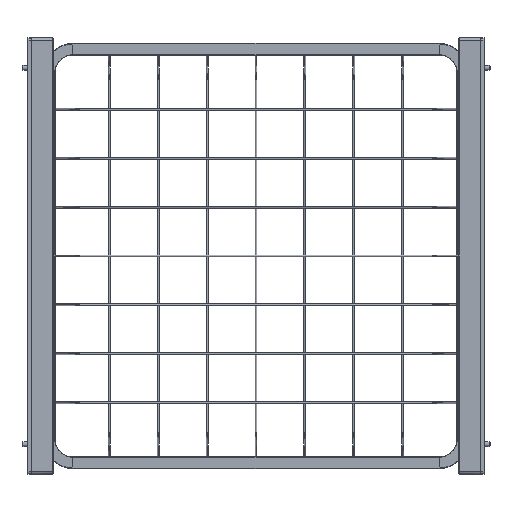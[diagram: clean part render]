
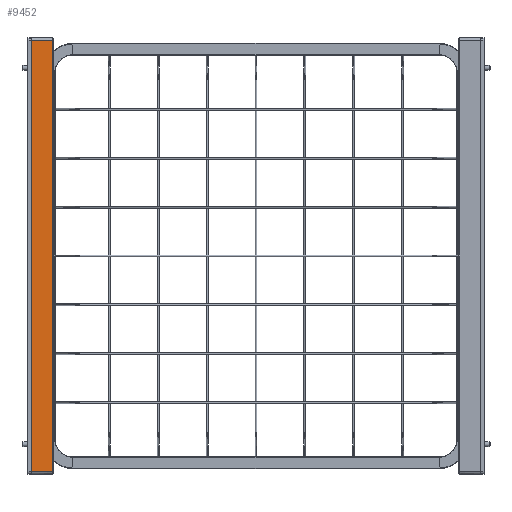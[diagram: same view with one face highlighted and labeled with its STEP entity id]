
A CAD part, front view. The second image highlights one B-rep face of the part: STEP entity #9452.
In plain terms, the highlighted planar face has unit normal (0.018, -1, 0).
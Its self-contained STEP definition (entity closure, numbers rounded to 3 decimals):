
#281 = LINE ( 'NONE', #11150, #6904 ) ;
#987 = DIRECTION ( 'NONE',  ( 1., 0.017, 0.017 ) ) ;
#1148 = LINE ( 'NONE', #15464, #6654 ) ;
#1472 = CARTESIAN_POINT ( 'NONE',  ( 0., -11., 220.5 ) ) ;
#1526 = ORIENTED_EDGE ( 'NONE', *, *, #2367, .T. ) ;
#1558 = DIRECTION ( 'NONE',  ( 0.017, -1., 0. ) ) ;
#1808 = VERTEX_POINT ( 'NONE', #8931 ) ;
#2066 = VERTEX_POINT ( 'NONE', #1472 ) ;
#2075 = LINE ( 'NONE', #12658, #5391 ) ;
#2367 = EDGE_CURVE ( 'NONE', #14713, #14469, #15377, .T. ) ;
#3562 = DIRECTION ( 'NONE',  ( -1., -0.017, 0.017 ) ) ;
#3755 = ORIENTED_EDGE ( 'NONE', *, *, #5027, .T. ) ;
#4649 = CARTESIAN_POINT ( 'NONE',  ( 7.745, -10.865, -220.365 ) ) ;
#4726 = EDGE_CURVE ( 'NONE', #14469, #1808, #2075, .T. ) ;
#4869 = EDGE_CURVE ( 'NONE', #1808, #2066, #1148, .T. ) ;
#5027 = EDGE_CURVE ( 'NONE', #2066, #14713, #281, .T. ) ;
#5037 = DIRECTION ( 'NONE',  ( 0., 0., -1. ) ) ;
#5152 = FACE_OUTER_BOUND ( 'NONE', #11755, .T. ) ;
#5391 = VECTOR ( 'NONE', #10288, 1000. ) ;
#6199 = ORIENTED_EDGE ( 'NONE', *, *, #4869, .T. ) ;
#6654 = VECTOR ( 'NONE', #3562, 1000. ) ;
#6904 = VECTOR ( 'NONE', #5037, 1000. ) ;
#8931 = CARTESIAN_POINT ( 'NONE',  ( 21.509, -10.625, 220.125 ) ) ;
#9452 = ADVANCED_FACE ( 'NONE', ( #5152 ), #9934, .T. ) ;
#9934 = PLANE ( 'NONE',  #10842 ) ;
#10288 = DIRECTION ( 'NONE',  ( 0., 0., 1. ) ) ;
#10842 = AXIS2_PLACEMENT_3D ( 'NONE', #14539, #1558, #12194 ) ;
#11150 = CARTESIAN_POINT ( 'NONE',  ( 0., -11., 223.5 ) ) ;
#11247 = ORIENTED_EDGE ( 'NONE', *, *, #4726, .T. ) ;
#11755 = EDGE_LOOP ( 'NONE', ( #1526, #11247, #6199, #3755 ) ) ;
#12088 = VECTOR ( 'NONE', #987, 1000. ) ;
#12194 = DIRECTION ( 'NONE',  ( 1., 0.017, 0. ) ) ;
#12658 = CARTESIAN_POINT ( 'NONE',  ( 21.509, -10.625, 220.116 ) ) ;
#13682 = CARTESIAN_POINT ( 'NONE',  ( 0., -11., -220.5 ) ) ;
#14469 = VERTEX_POINT ( 'NONE', #15239 ) ;
#14539 = CARTESIAN_POINT ( 'NONE',  ( 0., -11., 223.5 ) ) ;
#14713 = VERTEX_POINT ( 'NONE', #13682 ) ;
#15239 = CARTESIAN_POINT ( 'NONE',  ( 21.509, -10.625, -220.125 ) ) ;
#15377 = LINE ( 'NONE', #4649, #12088 ) ;
#15464 = CARTESIAN_POINT ( 'NONE',  ( -0.052, -11.001, 220.501 ) ) ;
